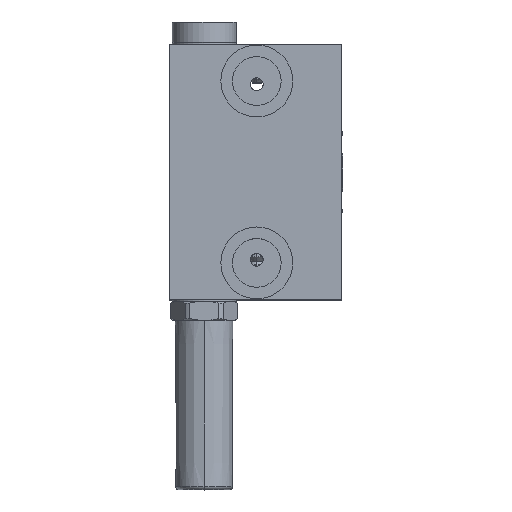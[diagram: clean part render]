
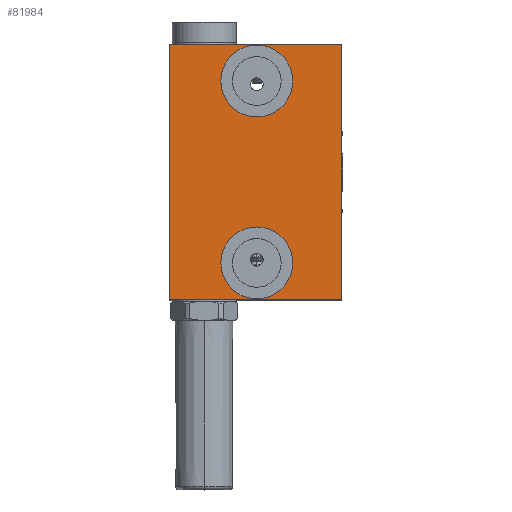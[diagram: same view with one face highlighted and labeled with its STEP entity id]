
A CAD part, top view. The second image highlights one B-rep face of the part: STEP entity #81984.
In plain terms, the highlighted planar face has unit normal (0, 0, 1).
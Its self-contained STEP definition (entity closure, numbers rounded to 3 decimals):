
#2016 = ORIENTED_EDGE ( 'NONE', *, *, #93679, .T. ) ;
#2346 = VECTOR ( 'NONE', #69647, 1000. ) ;
#4340 = DIRECTION ( 'NONE',  ( 0., 0., 1. ) ) ;
#5053 = CARTESIAN_POINT ( 'NONE',  ( 11.75, -28.5, 85.75 ) ) ;
#5281 = CARTESIAN_POINT ( 'NONE',  ( 27., 40., 85.75 ) ) ;
#5710 = CARTESIAN_POINT ( 'NONE',  ( -27., 40., 85.75 ) ) ;
#7271 = AXIS2_PLACEMENT_3D ( 'NONE', #12152, #4340, #52341 ) ;
#9232 = ORIENTED_EDGE ( 'NONE', *, *, #68058, .T. ) ;
#10178 = LINE ( 'NONE', #87659, #84536 ) ;
#11912 = CARTESIAN_POINT ( 'NONE',  ( -10.75, -28.5, 85.75 ) ) ;
#12084 = DIRECTION ( 'NONE',  ( 1., 0., 0. ) ) ;
#12152 = CARTESIAN_POINT ( 'NONE',  ( 0.5, -28.5, 85.75 ) ) ;
#12908 = PLANE ( 'NONE',  #97776 ) ;
#14534 = LINE ( 'NONE', #54001, #2346 ) ;
#16067 = CARTESIAN_POINT ( 'NONE',  ( 0.5, 28.5, 85.75 ) ) ;
#16913 = DIRECTION ( 'NONE',  ( 1., 0., 0. ) ) ;
#16998 = DIRECTION ( 'NONE',  ( 0., 0., 1. ) ) ;
#18544 = DIRECTION ( 'NONE',  ( 0., -1., 0. ) ) ;
#18798 = ORIENTED_EDGE ( 'NONE', *, *, #64709, .F. ) ;
#22127 = VECTOR ( 'NONE', #16913, 1000. ) ;
#23335 = EDGE_LOOP ( 'NONE', ( #50148, #89766 ) ) ;
#23465 = FACE_BOUND ( 'NONE', #51336, .T. ) ;
#23474 = VERTEX_POINT ( 'NONE', #5281 ) ;
#25921 = FACE_BOUND ( 'NONE', #23335, .T. ) ;
#26491 = EDGE_CURVE ( 'NONE', #29618, #63397, #90654, .T. ) ;
#28465 = DIRECTION ( 'NONE',  ( 0., 0., 1. ) ) ;
#29618 = VERTEX_POINT ( 'NONE', #94205 ) ;
#31581 = VERTEX_POINT ( 'NONE', #65974 ) ;
#32385 = CARTESIAN_POINT ( 'NONE',  ( 0.5, 28.5, 85.75 ) ) ;
#35620 = EDGE_LOOP ( 'NONE', ( #92019, #9232, #96919, #2016 ) ) ;
#36766 = DIRECTION ( 'NONE',  ( 0., 0., 1. ) ) ;
#41545 = DIRECTION ( 'NONE',  ( 1., 0., 0. ) ) ;
#44370 = CIRCLE ( 'NONE', #7271, 11.25 ) ;
#50148 = ORIENTED_EDGE ( 'NONE', *, *, #86965, .F. ) ;
#51336 = EDGE_LOOP ( 'NONE', ( #85836, #18798 ) ) ;
#52284 = VERTEX_POINT ( 'NONE', #5053 ) ;
#52341 = DIRECTION ( 'NONE',  ( 1., 0., 0. ) ) ;
#52430 = CARTESIAN_POINT ( 'NONE',  ( 0., 0., 85.75 ) ) ;
#52675 = FACE_OUTER_BOUND ( 'NONE', #35620, .T. ) ;
#54001 = CARTESIAN_POINT ( 'NONE',  ( 27., 40., 85.75 ) ) ;
#55974 = EDGE_CURVE ( 'NONE', #81851, #52284, #44370, .T. ) ;
#58387 = DIRECTION ( 'NONE',  ( 0., 1., 0. ) ) ;
#60169 = EDGE_CURVE ( 'NONE', #99785, #23474, #79262, .T. ) ;
#60243 = DIRECTION ( 'NONE',  ( 1., 0., 0. ) ) ;
#60976 = VECTOR ( 'NONE', #58387, 1000. ) ;
#61539 = AXIS2_PLACEMENT_3D ( 'NONE', #75081, #28465, #12084 ) ;
#62723 = CARTESIAN_POINT ( 'NONE',  ( -10.75, 28.5, 85.75 ) ) ;
#63397 = VERTEX_POINT ( 'NONE', #62723 ) ;
#63738 = DIRECTION ( 'NONE',  ( 1., 0., 0. ) ) ;
#64709 = EDGE_CURVE ( 'NONE', #63397, #29618, #65098, .T. ) ;
#65098 = CIRCLE ( 'NONE', #73630, 11.25 ) ;
#65779 = EDGE_CURVE ( 'NONE', #91282, #31581, #10178, .T. ) ;
#65974 = CARTESIAN_POINT ( 'NONE',  ( -27., -40., 85.75 ) ) ;
#66008 = LINE ( 'NONE', #86070, #22127 ) ;
#68058 = EDGE_CURVE ( 'NONE', #31581, #99785, #66008, .T. ) ;
#69647 = DIRECTION ( 'NONE',  ( -1., 0., 0. ) ) ;
#73630 = AXIS2_PLACEMENT_3D ( 'NONE', #32385, #16998, #41545 ) ;
#73716 = CARTESIAN_POINT ( 'NONE',  ( 27., -40., 85.75 ) ) ;
#75081 = CARTESIAN_POINT ( 'NONE',  ( 0.5, -28.5, 85.75 ) ) ;
#79262 = LINE ( 'NONE', #73716, #60976 ) ;
#81851 = VERTEX_POINT ( 'NONE', #11912 ) ;
#81984 = ADVANCED_FACE ( 'NONE', ( #25921, #23465, #52675 ), #12908, .T. ) ;
#83073 = AXIS2_PLACEMENT_3D ( 'NONE', #16067, #86217, #63738 ) ;
#84536 = VECTOR ( 'NONE', #18544, 1000. ) ;
#85836 = ORIENTED_EDGE ( 'NONE', *, *, #26491, .F. ) ;
#86070 = CARTESIAN_POINT ( 'NONE',  ( 27., -40., 85.75 ) ) ;
#86177 = CIRCLE ( 'NONE', #61539, 11.25 ) ;
#86217 = DIRECTION ( 'NONE',  ( 0., 0., 1. ) ) ;
#86965 = EDGE_CURVE ( 'NONE', #52284, #81851, #86177, .T. ) ;
#87659 = CARTESIAN_POINT ( 'NONE',  ( -27., -40., 85.75 ) ) ;
#89295 = CARTESIAN_POINT ( 'NONE',  ( 27., -40., 85.75 ) ) ;
#89766 = ORIENTED_EDGE ( 'NONE', *, *, #55974, .F. ) ;
#90654 = CIRCLE ( 'NONE', #83073, 11.25 ) ;
#91282 = VERTEX_POINT ( 'NONE', #5710 ) ;
#92019 = ORIENTED_EDGE ( 'NONE', *, *, #65779, .T. ) ;
#93679 = EDGE_CURVE ( 'NONE', #23474, #91282, #14534, .T. ) ;
#94205 = CARTESIAN_POINT ( 'NONE',  ( 11.75, 28.5, 85.75 ) ) ;
#96919 = ORIENTED_EDGE ( 'NONE', *, *, #60169, .T. ) ;
#97776 = AXIS2_PLACEMENT_3D ( 'NONE', #52430, #36766, #60243 ) ;
#99785 = VERTEX_POINT ( 'NONE', #89295 ) ;
